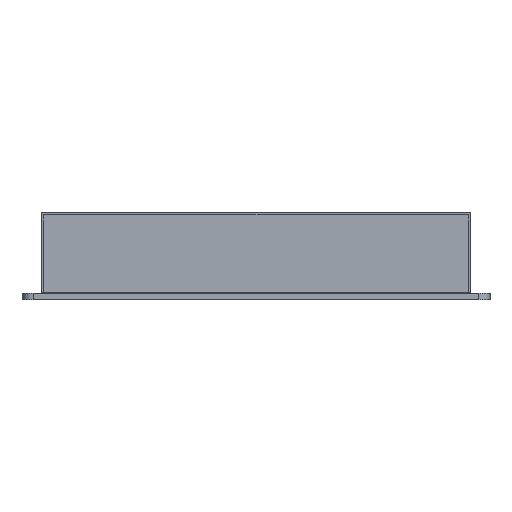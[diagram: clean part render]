
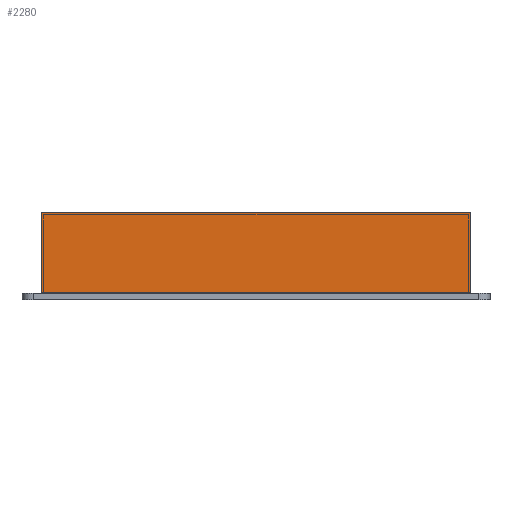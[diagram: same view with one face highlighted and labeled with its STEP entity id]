
A CAD part, left-side view. The second image highlights one B-rep face of the part: STEP entity #2280.
In plain terms, the highlighted planar face has unit normal (-1, 0, 0).
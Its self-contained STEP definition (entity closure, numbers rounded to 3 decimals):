
#64 = PLANE ( 'NONE',  #2202 ) ;
#160 = DIRECTION ( 'NONE',  ( 0., -1., 0. ) ) ;
#293 = CARTESIAN_POINT ( 'NONE',  ( -118.5, 67., 0.2 ) ) ;
#306 = EDGE_CURVE ( 'NONE', #2895, #4070, #3194, .T. ) ;
#442 = DIRECTION ( 'NONE',  ( 0., 1., 0. ) ) ;
#654 = VECTOR ( 'NONE', #6439, 1000. ) ;
#667 = VECTOR ( 'NONE', #1598, 1000. ) ;
#725 = LINE ( 'NONE', #4297, #1339 ) ;
#938 = EDGE_CURVE ( 'NONE', #2357, #2895, #5718, .T. ) ;
#1049 = ORIENTED_EDGE ( 'NONE', *, *, #2381, .T. ) ;
#1192 = CARTESIAN_POINT ( 'NONE',  ( -118.5, 67., 0.2 ) ) ;
#1339 = VECTOR ( 'NONE', #6394, 1000. ) ;
#1424 = EDGE_LOOP ( 'NONE', ( #1049, #2317, #5768, #3974 ) ) ;
#1598 = DIRECTION ( 'NONE',  ( 0., -1., 0. ) ) ;
#2161 = CARTESIAN_POINT ( 'NONE',  ( -118.5, 67., 25.2 ) ) ;
#2202 = AXIS2_PLACEMENT_3D ( 'NONE', #2161, #4249, #442 ) ;
#2280 = ADVANCED_FACE ( 'NONE', ( #4775 ), #64, .F. ) ;
#2317 = ORIENTED_EDGE ( 'NONE', *, *, #306, .F. ) ;
#2357 = VERTEX_POINT ( 'NONE', #4836 ) ;
#2381 = EDGE_CURVE ( 'NONE', #3136, #4070, #5453, .T. ) ;
#2895 = VERTEX_POINT ( 'NONE', #3497 ) ;
#3136 = VERTEX_POINT ( 'NONE', #293 ) ;
#3194 = LINE ( 'NONE', #4309, #654 ) ;
#3497 = CARTESIAN_POINT ( 'NONE',  ( -118.5, -67., 25.2 ) ) ;
#3974 = ORIENTED_EDGE ( 'NONE', *, *, #4367, .T. ) ;
#4070 = VERTEX_POINT ( 'NONE', #5475 ) ;
#4249 = DIRECTION ( 'NONE',  ( 1., 0., 0. ) ) ;
#4297 = CARTESIAN_POINT ( 'NONE',  ( -118.5, 67., 25.2 ) ) ;
#4309 = CARTESIAN_POINT ( 'NONE',  ( -118.5, -67., 25.2 ) ) ;
#4367 = EDGE_CURVE ( 'NONE', #2357, #3136, #725, .T. ) ;
#4723 = CARTESIAN_POINT ( 'NONE',  ( -118.5, 67., 25.2 ) ) ;
#4775 = FACE_OUTER_BOUND ( 'NONE', #1424, .T. ) ;
#4836 = CARTESIAN_POINT ( 'NONE',  ( -118.5, 67., 25.2 ) ) ;
#4838 = VECTOR ( 'NONE', #160, 1000. ) ;
#5453 = LINE ( 'NONE', #1192, #4838 ) ;
#5475 = CARTESIAN_POINT ( 'NONE',  ( -118.5, -67., 0.2 ) ) ;
#5718 = LINE ( 'NONE', #4723, #667 ) ;
#5768 = ORIENTED_EDGE ( 'NONE', *, *, #938, .F. ) ;
#6394 = DIRECTION ( 'NONE',  ( 0., 0., -1. ) ) ;
#6439 = DIRECTION ( 'NONE',  ( 0., 0., -1. ) ) ;
